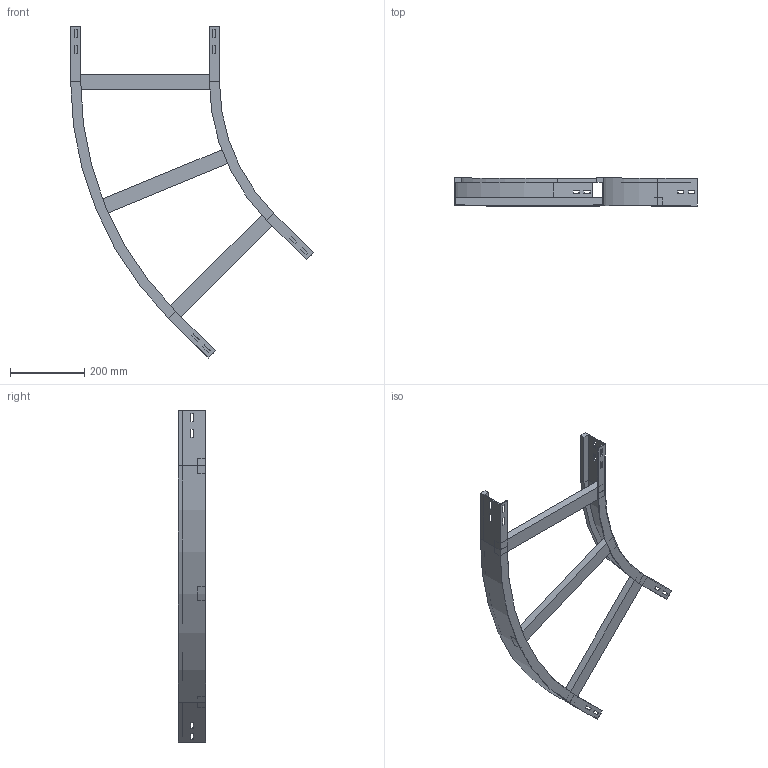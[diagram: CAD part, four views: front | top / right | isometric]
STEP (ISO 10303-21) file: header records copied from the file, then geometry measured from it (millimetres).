
FILE_DESCRIPTION (( 'STEP AP214' ), '1' );
FILE_NAME ('11B5C400.step', '2025-02-21T15:15:27', ( '' ), ( '' ), 'SwSTEP 2.0', 'SolidWorks 2023', '' );
FILE_SCHEMA (( 'AUTOMOTIVE_DESIGN' ));
Length unit declared in the file: millimetre
Products named in the file (4): A2_LONGH.INTERNO 45°_H75_R500; A2_LONGH.ESTERNO 45°_H75_R500+400; 11B5C400; TRAVERSINO_400
Assembly tree (5 placements, depth 2):
  11B5C400
    A2_LONGH.INTERNO 45°_H75_R500
    A2_LONGH.ESTERNO 45°_H75_R500+400
    TRAVERSINO_400  x3
Bounding box: 652.51 x 75 x 892.46 mm (x, y, z)
Volume: 1623578.5 mm3; surface area: 548199.6 mm2
Topology: 5 solids, 5 shells, 134 faces, 340 edges, 216 vertices
Faces by surface type: plane 126, cylinder 8
Entity records: 3821 total; most frequent: CARTESIAN_POINT 646, ORIENTED_EDGE 632, DIRECTION 592, EDGE_CURVE 316, LINE 300, VECTOR 300, VERTEX_POINT 200, EDGE_LOOP 154
